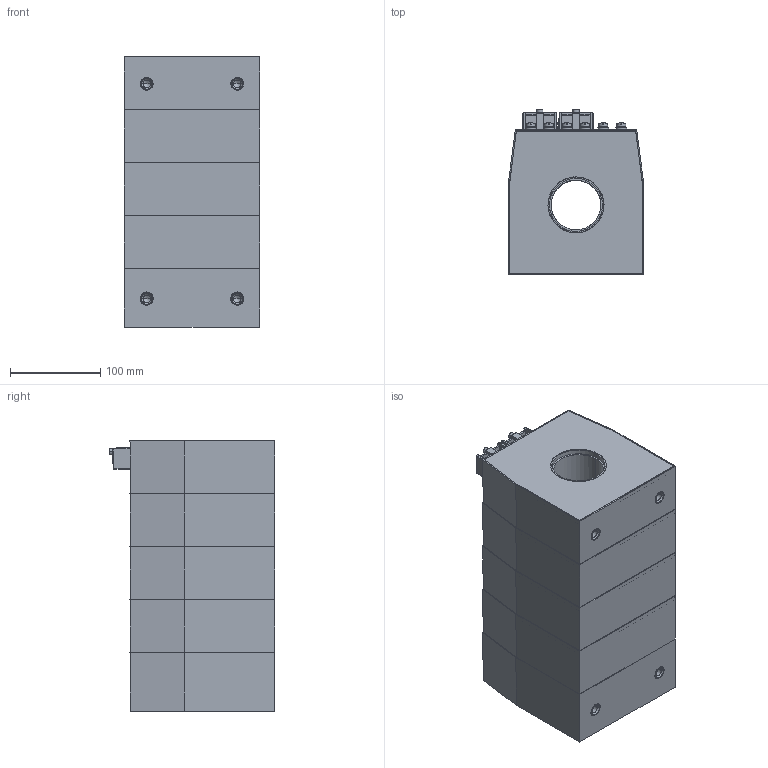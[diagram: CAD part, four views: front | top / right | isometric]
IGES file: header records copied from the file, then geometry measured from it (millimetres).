
Start section: IGES file generated from Kompas f.0 for Windows drawing by the IGES translator from Ascon Ltd., translator version IGESOUT-5.1.
Global section: file name: C:\Ðàáîòà\Èçâåùåíèÿ 5\ÒØÏ-ÍÒÇ-0.66-61...,71...,81... (ñáîðíûé)\Âåðñèÿ îò 21.05.24\3D ìîäåëü\ÒØÏ-ÍÒÇ-0,66-75À\ÒØÏ-ÍÒÇ-0,66-75À (55 ìì, 5-é ãàáàðèò).igs; native system: Kompas( 32 bit ) for Windows; preprocessor: 1.0; author: 123; organization: Microsoft; date: -17750727:093543; units: millimetre
Bounding box: 150 x 182.93 x 299 mm (x, y, z)
Volume: 947510.2 mm3; surface area: 645898 mm2
Topology: 45 solids, 45 shells, 967 faces, 2275 edges, 1415 vertices
Faces by surface type: revolution 532, bspline 435
